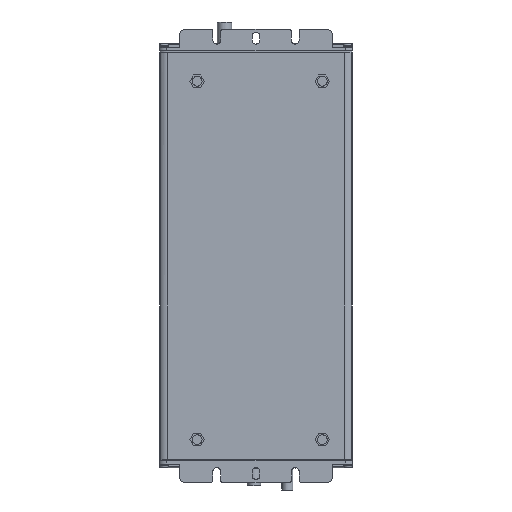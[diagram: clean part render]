
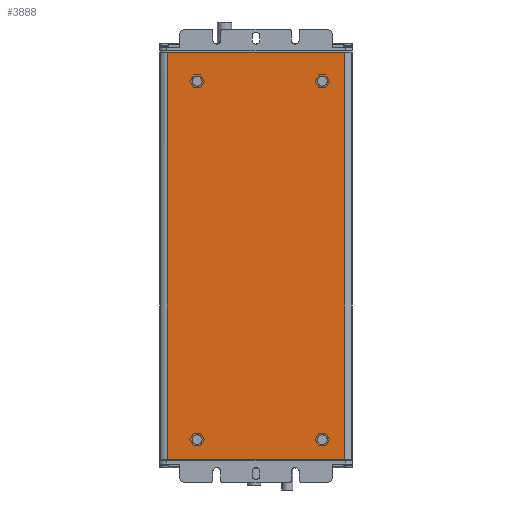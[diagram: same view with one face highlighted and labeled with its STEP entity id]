
A CAD part, front view. The second image highlights one B-rep face of the part: STEP entity #3888.
In plain terms, the highlighted planar face has unit normal (0, -1, 0).
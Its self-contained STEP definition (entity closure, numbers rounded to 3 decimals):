
#1826=CARTESIAN_POINT('',(45.3,-18.05,52.5));
#2148=CARTESIAN_POINT('',(-45.3,-18.05,-154.9));
#2497=DIRECTION('',(0.,0.,-1.));
#2498=VECTOR('',#2497,207.4);
#2499=CARTESIAN_POINT('',(-45.3,-18.05,52.5));
#2500=LINE('',#2499,#2498);
#2501=DIRECTION('',(1.,0.,0.));
#2502=VECTOR('',#2501,90.6);
#2503=CARTESIAN_POINT('',(-45.3,-18.05,52.5));
#2504=LINE('',#2503,#2502);
#2505=DIRECTION('',(-1.,0.,0.));
#2506=VECTOR('',#2505,90.6);
#2507=CARTESIAN_POINT('',(45.3,-18.05,-154.9));
#2508=LINE('',#2507,#2506);
#2509=CARTESIAN_POINT('',(-30.,-18.05,-144.9));
#2510=DIRECTION('',(0.,-1.,0.));
#2511=DIRECTION('',(0.,0.,1.));
#2512=AXIS2_PLACEMENT_3D('',#2509,#2510,#2511);
#2514=CARTESIAN_POINT('',(-30.,-18.05,-144.9));
#2515=DIRECTION('',(0.,-1.,0.));
#2516=DIRECTION('',(0.,0.,-1.));
#2517=AXIS2_PLACEMENT_3D('',#2514,#2515,#2516);
#2519=CARTESIAN_POINT('',(33.8,-18.05,-144.9));
#2520=DIRECTION('',(0.,-1.,0.));
#2521=DIRECTION('',(0.,0.,1.));
#2522=AXIS2_PLACEMENT_3D('',#2519,#2520,#2521);
#2524=CARTESIAN_POINT('',(33.8,-18.05,-144.9));
#2525=DIRECTION('',(0.,-1.,0.));
#2526=DIRECTION('',(0.,0.,-1.));
#2527=AXIS2_PLACEMENT_3D('',#2524,#2525,#2526);
#2529=CARTESIAN_POINT('',(33.8,-18.05,37.859));
#2530=DIRECTION('',(0.,-1.,0.));
#2531=DIRECTION('',(0.,0.,1.));
#2532=AXIS2_PLACEMENT_3D('',#2529,#2530,#2531);
#2534=CARTESIAN_POINT('',(33.8,-18.05,37.859));
#2535=DIRECTION('',(0.,-1.,0.));
#2536=DIRECTION('',(0.,0.,-1.));
#2537=AXIS2_PLACEMENT_3D('',#2534,#2535,#2536);
#2539=CARTESIAN_POINT('',(-30.,-18.05,37.859));
#2540=DIRECTION('',(0.,-1.,0.));
#2541=DIRECTION('',(0.,0.,1.));
#2542=AXIS2_PLACEMENT_3D('',#2539,#2540,#2541);
#2544=CARTESIAN_POINT('',(-30.,-18.05,37.859));
#2545=DIRECTION('',(0.,-1.,0.));
#2546=DIRECTION('',(0.,0.,-1.));
#2547=AXIS2_PLACEMENT_3D('',#2544,#2545,#2546);
#2553=DIRECTION('',(0.,0.,1.));
#2554=VECTOR('',#2553,207.4);
#2555=CARTESIAN_POINT('',(45.3,-18.05,-154.9));
#2556=LINE('',#2555,#2554);
#2774=VERTEX_POINT('',#1826);
#2775=CARTESIAN_POINT('',(-45.3,-18.05,52.5));
#2776=VERTEX_POINT('',#2775);
#2926=VERTEX_POINT('',#2148);
#2927=CARTESIAN_POINT('',(45.3,-18.05,-154.9));
#2928=VERTEX_POINT('',#2927);
#2997=CARTESIAN_POINT('',(-30.,-18.05,-142.4));
#2998=CARTESIAN_POINT('',(-30.,-18.05,-147.4));
#2999=VERTEX_POINT('',#2997);
#3000=VERTEX_POINT('',#2998);
#3001=CARTESIAN_POINT('',(33.8,-18.05,-142.4));
#3002=CARTESIAN_POINT('',(33.8,-18.05,-147.4));
#3003=VERTEX_POINT('',#3001);
#3004=VERTEX_POINT('',#3002);
#3005=CARTESIAN_POINT('',(33.8,-18.05,40.359));
#3006=CARTESIAN_POINT('',(33.8,-18.05,35.359));
#3007=VERTEX_POINT('',#3005);
#3008=VERTEX_POINT('',#3006);
#3009=CARTESIAN_POINT('',(-30.,-18.05,40.359));
#3010=CARTESIAN_POINT('',(-30.,-18.05,35.359));
#3011=VERTEX_POINT('',#3009);
#3012=VERTEX_POINT('',#3010);
#3852=CARTESIAN_POINT('',(0.,-18.05,-52.5));
#3853=DIRECTION('',(0.,-1.,0.));
#3854=DIRECTION('',(1.,0.,0.));
#3855=AXIS2_PLACEMENT_3D('',#3852,#3853,#3854);
#3856=PLANE('',#3855);
#3857=ORIENTED_EDGE('',*,*,#3846,.F.);
#3858=ORIENTED_EDGE('',*,*,#3078,.T.);
#3860=ORIENTED_EDGE('',*,*,#3859,.F.);
#3861=ORIENTED_EDGE('',*,*,#3299,.T.);
#3862=EDGE_LOOP('',(#3857,#3858,#3860,#3861));
#3863=FACE_OUTER_BOUND('',#3862,.F.);
#3865=ORIENTED_EDGE('',*,*,#3864,.T.);
#3867=ORIENTED_EDGE('',*,*,#3866,.T.);
#3868=EDGE_LOOP('',(#3865,#3867));
#3869=FACE_BOUND('',#3868,.F.);
#3871=ORIENTED_EDGE('',*,*,#3870,.T.);
#3873=ORIENTED_EDGE('',*,*,#3872,.T.);
#3874=EDGE_LOOP('',(#3871,#3873));
#3875=FACE_BOUND('',#3874,.F.);
#3877=ORIENTED_EDGE('',*,*,#3876,.T.);
#3879=ORIENTED_EDGE('',*,*,#3878,.T.);
#3880=EDGE_LOOP('',(#3877,#3879));
#3881=FACE_BOUND('',#3880,.F.);
#3883=ORIENTED_EDGE('',*,*,#3882,.T.);
#3885=ORIENTED_EDGE('',*,*,#3884,.T.);
#3886=EDGE_LOOP('',(#3883,#3885));
#3887=FACE_BOUND('',#3886,.F.);
#2513=CIRCLE('',#2512,2.5);
#2518=CIRCLE('',#2517,2.5);
#2523=CIRCLE('',#2522,2.5);
#2528=CIRCLE('',#2527,2.5);
#2533=CIRCLE('',#2532,2.5);
#2538=CIRCLE('',#2537,2.5);
#2543=CIRCLE('',#2542,2.5);
#2548=CIRCLE('',#2547,2.5);
#3078=EDGE_CURVE('',#2776,#2774,#2504,.T.);
#3299=EDGE_CURVE('',#2928,#2926,#2508,.T.);
#3846=EDGE_CURVE('',#2776,#2926,#2500,.T.);
#3859=EDGE_CURVE('',#2928,#2774,#2556,.T.);
#3864=EDGE_CURVE('',#2999,#3000,#2513,.T.);
#3866=EDGE_CURVE('',#3000,#2999,#2518,.T.);
#3870=EDGE_CURVE('',#3003,#3004,#2523,.T.);
#3872=EDGE_CURVE('',#3004,#3003,#2528,.T.);
#3876=EDGE_CURVE('',#3007,#3008,#2533,.T.);
#3878=EDGE_CURVE('',#3008,#3007,#2538,.T.);
#3882=EDGE_CURVE('',#3011,#3012,#2543,.T.);
#3884=EDGE_CURVE('',#3012,#3011,#2548,.T.);
#3888=ADVANCED_FACE('',(#3863,#3869,#3875,#3881,#3887),#3856,.T.);
